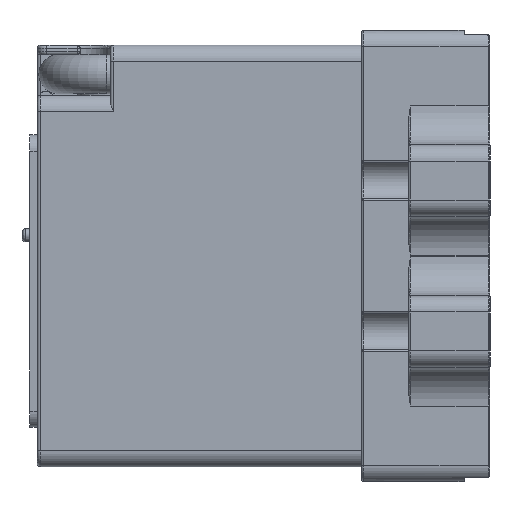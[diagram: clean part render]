
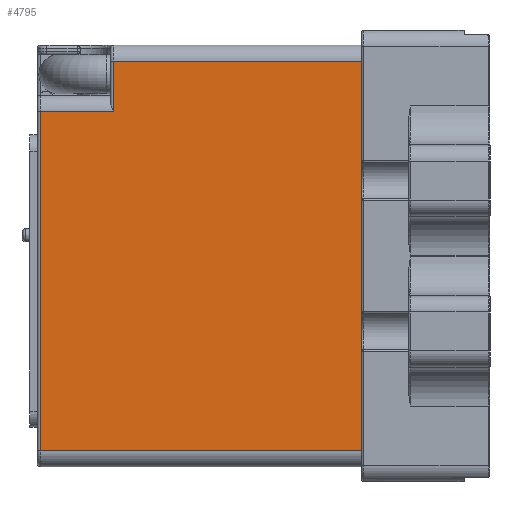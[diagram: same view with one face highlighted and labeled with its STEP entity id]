
A CAD part, left-side view. The second image highlights one B-rep face of the part: STEP entity #4795.
In plain terms, the highlighted planar face has unit normal (-1, 0, 0) as drawn and (0, 1, 0) by its records, which use the part's own axes.
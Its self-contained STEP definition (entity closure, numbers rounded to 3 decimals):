
#4795=ADVANCED_FACE('',(#7919),#6212,.F.);
#6212=PLANE('',#39356);
#7919=FACE_OUTER_BOUND('',#9965,.T.);
#9965=EDGE_LOOP('',(#18597,#18598,#18599,#18600,#18601,#18602));
#18597=ORIENTED_EDGE('',*,*,#28420,.T.);
#18598=ORIENTED_EDGE('',*,*,#28421,.T.);
#18599=ORIENTED_EDGE('',*,*,#28422,.T.);
#18600=ORIENTED_EDGE('',*,*,#28423,.T.);
#18601=ORIENTED_EDGE('',*,*,#28424,.T.);
#18602=ORIENTED_EDGE('',*,*,#28425,.T.);
#23653=VERTEX_POINT('',#65581);
#23654=VERTEX_POINT('',#65582);
#23655=VERTEX_POINT('',#65584);
#23656=VERTEX_POINT('',#65586);
#23657=VERTEX_POINT('',#65588);
#23658=VERTEX_POINT('',#65590);
#28420=EDGE_CURVE('',#23653,#23654,#32525,.T.);
#28421=EDGE_CURVE('',#23654,#23655,#32526,.T.);
#28422=EDGE_CURVE('',#23655,#23656,#32527,.T.);
#28423=EDGE_CURVE('',#23656,#23657,#32528,.T.);
#28424=EDGE_CURVE('',#23657,#23658,#32529,.T.);
#28425=EDGE_CURVE('',#23658,#23653,#32530,.T.);
#32525=LINE('',#65580,#36607);
#32526=LINE('',#65583,#36608);
#32527=LINE('',#65585,#36609);
#32528=LINE('',#65587,#36610);
#32529=LINE('',#65589,#36611);
#32530=LINE('',#65591,#36612);
#36607=VECTOR('',#47438,1.);
#36608=VECTOR('',#47439,1.);
#36609=VECTOR('',#47440,1.);
#36610=VECTOR('',#47441,1.);
#36611=VECTOR('',#47442,1.);
#36612=VECTOR('',#47443,1.);
#39356=AXIS2_PLACEMENT_3D('',#65592,#47444,#47445);
#47438=DIRECTION('',(0.,0.,1.));
#47439=DIRECTION('',(1.,0.,0.));
#47440=DIRECTION('',(0.,0.,-1.));
#47441=DIRECTION('',(-1.,0.,0.));
#47442=DIRECTION('',(0.,0.,1.));
#47443=DIRECTION('',(1.,0.,0.));
#47444=DIRECTION('',(0.,-1.,0.));
#47445=DIRECTION('',(0.,0.,-1.));
#65580=CARTESIAN_POINT('',(-44.5,75.,70.429));
#65581=CARTESIAN_POINT('',(-44.5,75.,76.5));
#65582=CARTESIAN_POINT('',(-44.5,75.,99.));
#65583=CARTESIAN_POINT('',(60.,75.,99.));
#65584=CARTESIAN_POINT('',(60.,75.,99.));
#65585=CARTESIAN_POINT('',(60.,75.,100.));
#65586=CARTESIAN_POINT('',(60.,75.,0.));
#65587=CARTESIAN_POINT('',(-65.,75.,0.));
#65588=CARTESIAN_POINT('',(-60.,75.,0.));
#65589=CARTESIAN_POINT('',(-60.,75.,100.));
#65590=CARTESIAN_POINT('',(-60.,75.,76.5));
#65591=CARTESIAN_POINT('',(-44.5,75.,76.5));
#65592=CARTESIAN_POINT('',(-65.,75.,100.));
